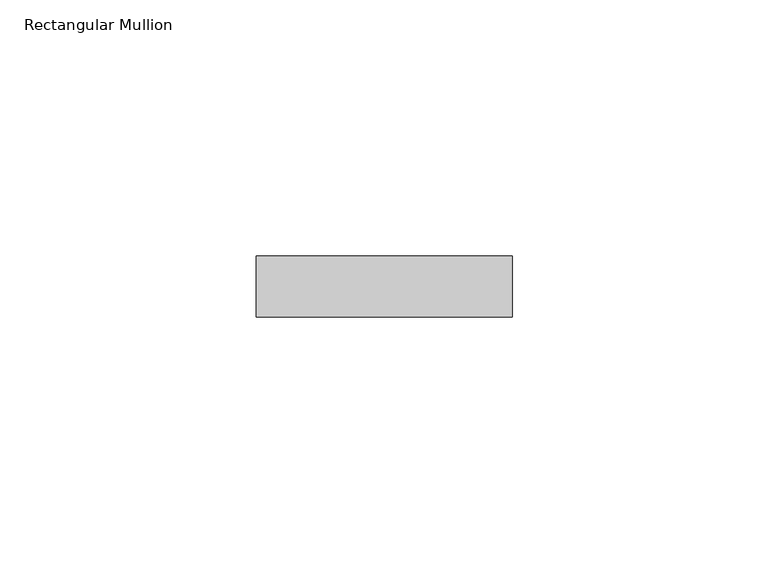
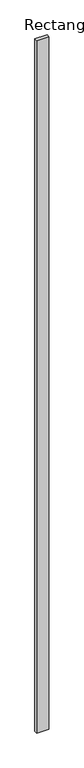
"""IFC4 building model written with IfcOpenShell, lengths in millimetres: member geometry, Rectangular Mullion : RSen_21_CWM_support profile - 50x12 - right_gen_duco projects."""

from ifc_helpers import new_model, si_unit, frame, origin, place, context, project, spatial, polyline, outline, extrude, source, transform, mapped, element, save


def rectangular_mullion_f8d4a220(model_context):
    return source(origin(), model_context, "Body", "SweptSolid", [
        extrude(outline(polyline([(-100.0, 1.0), (-50.0, 1.0), (-50.0, -11.0), (-100.0, -11.0), (-100.0, 1.0)])), frame((0.0, 0.0, -3000.0), z_axis=(0.0, 0.0, 1.0), x_axis=(1.0, 0.0, 0.0)), (0.0, 0.0, 1.0), 3000.0),
    ])


if __name__ == "__main__":
    model = new_model("IFC4")
    model_context = context("Model", 3, world=origin())
    ifc_project = project(units=[si_unit("LENGTHUNIT", "METRE", prefix="MILLI")], contexts=[model_context])
    site = spatial("IfcSite", under=ifc_project)
    building = spatial("IfcBuilding", under=site)
    placement = place(None, origin())
    rectangular_mullion_shape = rectangular_mullion_f8d4a220(model_context)
    element("IfcMember", 1, ObjectType="Rectangular Mullion : RSen_21_CWM_support profile - 50x12 - right_gen_duco projects", at=placement, inside=building, context=model_context, shape_type="MappedRepresentation", body=[
        mapped(rectangular_mullion_shape, transform((0.0, 0.0, 0.0), x_axis=(1.0, 0.0, 0.0), y_axis=(0.0, 1.0, 0.0), z_axis=(0.0, 0.0, 1.0))),
    ])
    save(model, "model.ifc")
